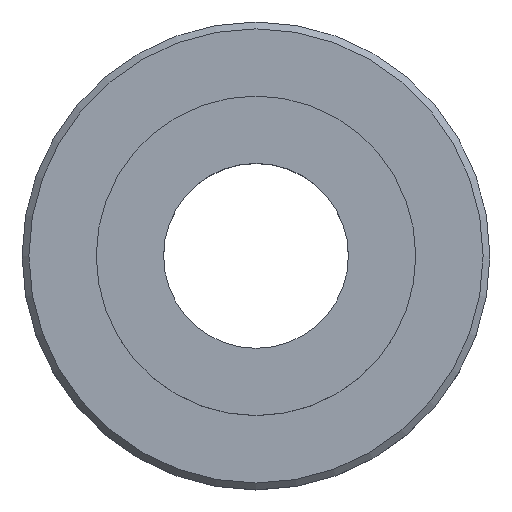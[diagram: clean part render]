
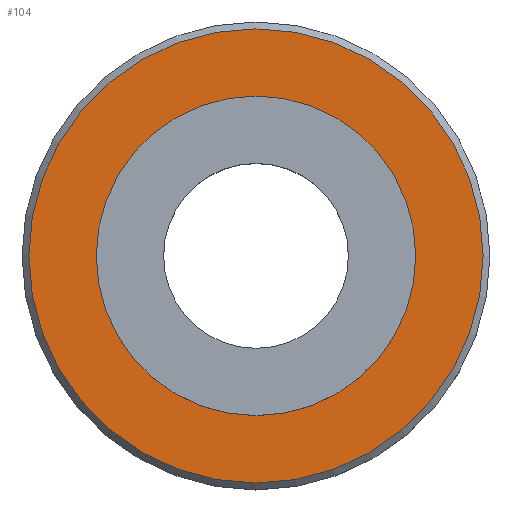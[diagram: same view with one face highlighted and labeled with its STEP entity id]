
A CAD part, top view. The second image highlights one B-rep face of the part: STEP entity #104.
In plain terms, the highlighted planar face has unit normal (0, 0, 1).
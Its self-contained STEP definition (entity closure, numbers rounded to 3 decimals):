
#15=FACE_BOUND('',#34,.T.);
#18=PLANE('',#135);
#26=FACE_OUTER_BOUND('',#33,.T.);
#33=EDGE_LOOP('',(#87));
#34=EDGE_LOOP('',(#88));
#49=CIRCLE('',#130,9.95);
#53=CIRCLE('',#136,7.);
#57=VERTEX_POINT('',#182);
#61=VERTEX_POINT('',#194);
#65=EDGE_CURVE('',#57,#57,#49,.T.);
#71=EDGE_CURVE('',#61,#61,#53,.T.);
#87=ORIENTED_EDGE('',*,*,#65,.F.);
#88=ORIENTED_EDGE('',*,*,#71,.T.);
#104=ADVANCED_FACE('',(#26,#15),#18,.T.);
#130=AXIS2_PLACEMENT_3D('',#183,#148,#149);
#135=AXIS2_PLACEMENT_3D('',#193,#160,#161);
#136=AXIS2_PLACEMENT_3D('',#195,#162,#163);
#148=DIRECTION('center_axis',(0.,0.,-1.));
#149=DIRECTION('ref_axis',(-1.,0.,0.));
#160=DIRECTION('center_axis',(0.,0.,1.));
#161=DIRECTION('ref_axis',(1.,0.,0.));
#162=DIRECTION('center_axis',(0.,0.,-1.));
#163=DIRECTION('ref_axis',(1.,0.,0.));
#182=CARTESIAN_POINT('',(9.95,0.,3.1));
#183=CARTESIAN_POINT('Origin',(0.,0.,3.1));
#193=CARTESIAN_POINT('Origin',(0.,0.,3.1));
#194=CARTESIAN_POINT('',(-7.,0.,3.1));
#195=CARTESIAN_POINT('Origin',(0.,0.,3.1));
